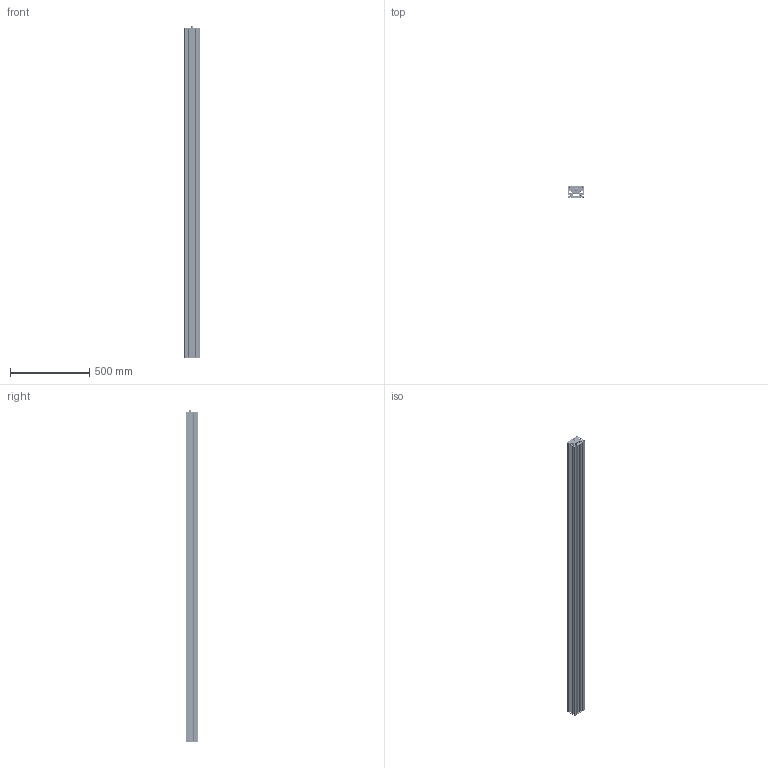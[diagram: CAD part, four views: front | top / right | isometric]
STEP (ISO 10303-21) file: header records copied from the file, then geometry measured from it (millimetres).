
FILE_DESCRIPTION (( 'STEP AP214' ), '1' );
FILE_NAME ('MLLT180.5-XXX.STEP', '2026-05-26T02:36:35', ( '' ), ( '' ), 'SwSTEP 2.0', 'SolidWorks 2025', '' );
FILE_SCHEMA (( 'AUTOMOTIVE_DESIGN' ));
Length unit declared in the file: inch
Products named in the file (20): 2500-00565C_ASM; Standard Lens; 2500-00565C-BT; LED-Lens Holder and Lens; 2060-401; Extrusion MLLT_End M12 B&L-code; 3535_holder_10568; 2610-00066-DOME; Extrusion MLLT_End; 2500-00565C-SBN; xpg3; 10-32 x .750_92949A269; M12-BulkHead-L-code.stp; MLL111.5-3535_PCB-LL111.5; 2500-00565C-SB; SD-MLLTxxxx_80.5; MLL111.5-3535; 2500-00565C; Extrusion MLLT_80.5; MLLT180.5-XXX
Assembly tree (46 placements, depth 6):
  MLLT180.5-XXX
    Extrusion MLLT_80.5
    Extrusion MLLT_End M12 B&L-code
    Extrusion MLLT_End
    10-32 x .750_92949A269  x8
    MLL111.5-3535  x7
      MLL111.5-3535_PCB-LL111.5
      LED-Lens Holder and Lens
        3535_holder_10568
        xpg3
          2500-00565C_ASM
            2500-00565C
            2500-00565C-BT
            2500-00565C-SBN
            2500-00565C-SB
          2610-00066-DOME
        Standard Lens
      2060-401
    M12-BulkHead-L-code.stp
    SD-MLLTxxxx_80.5
Bounding box: 95.25 x 72.5 x 2092.12 mm (x, y, z)
Volume: 4249051.9 mm3; surface area: 3189131.9 mm2
Topology: 804 solids, 804 shells, 19474 faces, 50119 edges, 32507 vertices
Faces by surface type: plane 12155, cylinder 2841, cone 2278, bspline 2021, torus 121, sphere 58
Full cylindrical faces by diameter (mm): 0.05 x84, 0.063 x168, 1 x84, 2.25 x28, 2.261 x28, 4.178 x184, 4.826 x176, 5.105 x8, 5.944 x84, 9.169 x8, 19.71 x84
Entity records: 44774 total; most frequent: CARTESIAN_POINT 11911, ORIENTED_EDGE 5944, DIRECTION 5923, EDGE_CURVE 2972, AXIS2_PLACEMENT_3D 2186, VERTEX_POINT 1998, LINE 1551, VECTOR 1551
